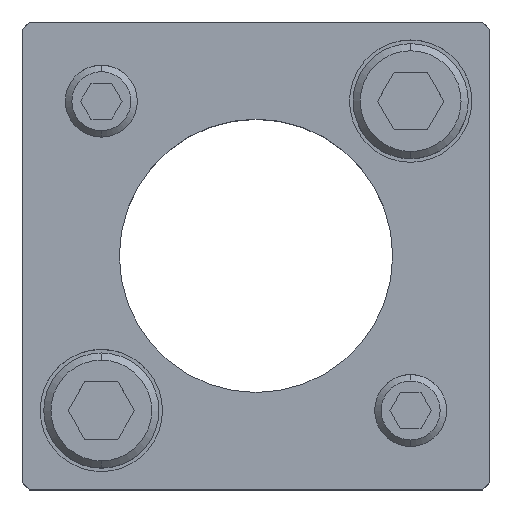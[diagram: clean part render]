
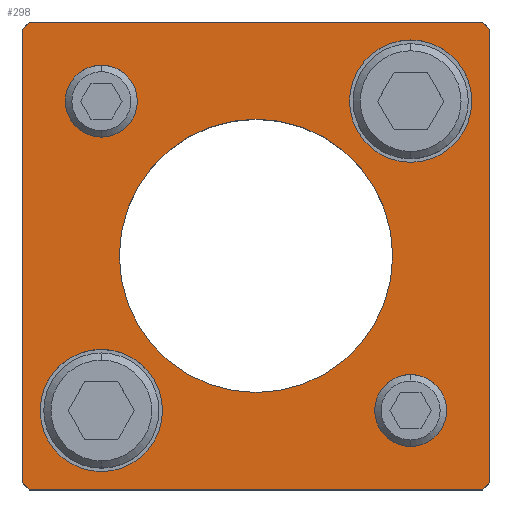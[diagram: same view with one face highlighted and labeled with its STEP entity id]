
A CAD part, top view. The second image highlights one B-rep face of the part: STEP entity #298.
In plain terms, the highlighted planar face has unit normal (0, 0, 1).
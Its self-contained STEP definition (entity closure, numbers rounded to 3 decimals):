
#153=PLANE('',#2436);
#220=FACE_BOUND('',#611,.T.);
#221=FACE_BOUND('',#612,.T.);
#222=FACE_BOUND('',#613,.T.);
#223=FACE_BOUND('',#614,.T.);
#224=FACE_BOUND('',#615,.T.);
#225=FACE_BOUND('',#616,.T.);
#298=ADVANCED_FACE('',(#220,#221,#222,#223,#224,#225),#153,.T.);
#611=EDGE_LOOP('',(#1281,#1282,#1283,#1284,#1285,#1286,#1287,#1288));
#612=EDGE_LOOP('',(#1289,#1290));
#613=EDGE_LOOP('',(#1291,#1292));
#614=EDGE_LOOP('',(#1293,#1294));
#615=EDGE_LOOP('',(#1295,#1296));
#616=EDGE_LOOP('',(#1297,#1298));
#759=LINE('',#3542,#941);
#760=LINE('',#3545,#942);
#761=LINE('',#3547,#943);
#762=LINE('',#3549,#944);
#763=LINE('',#3551,#945);
#764=LINE('',#3553,#946);
#765=LINE('',#3555,#947);
#766=LINE('',#3557,#948);
#941=VECTOR('',#2839,1.);
#942=VECTOR('',#2840,1.);
#943=VECTOR('',#2841,1.);
#944=VECTOR('',#2842,1.);
#945=VECTOR('',#2843,1.);
#946=VECTOR('',#2844,1.);
#947=VECTOR('',#2845,1.);
#948=VECTOR('',#2846,1.);
#1281=ORIENTED_EDGE('',*,*,#2001,.T.);
#1282=ORIENTED_EDGE('',*,*,#2002,.T.);
#1283=ORIENTED_EDGE('',*,*,#2003,.T.);
#1284=ORIENTED_EDGE('',*,*,#2004,.T.);
#1285=ORIENTED_EDGE('',*,*,#2005,.T.);
#1286=ORIENTED_EDGE('',*,*,#2006,.T.);
#1287=ORIENTED_EDGE('',*,*,#2007,.T.);
#1288=ORIENTED_EDGE('',*,*,#2008,.T.);
#1289=ORIENTED_EDGE('',*,*,#2009,.F.);
#1290=ORIENTED_EDGE('',*,*,#2010,.F.);
#1291=ORIENTED_EDGE('',*,*,#2011,.F.);
#1292=ORIENTED_EDGE('',*,*,#2012,.F.);
#1293=ORIENTED_EDGE('',*,*,#1987,.F.);
#1294=ORIENTED_EDGE('',*,*,#1983,.F.);
#1295=ORIENTED_EDGE('',*,*,#1981,.F.);
#1296=ORIENTED_EDGE('',*,*,#1977,.F.);
#1297=ORIENTED_EDGE('',*,*,#2013,.T.);
#1298=ORIENTED_EDGE('',*,*,#2014,.T.);
#1751=VERTEX_POINT('',#3493);
#1752=VERTEX_POINT('',#3494);
#1755=VERTEX_POINT('',#3506);
#1756=VERTEX_POINT('',#3507);
#1767=VERTEX_POINT('',#3543);
#1768=VERTEX_POINT('',#3544);
#1769=VERTEX_POINT('',#3546);
#1770=VERTEX_POINT('',#3548);
#1771=VERTEX_POINT('',#3550);
#1772=VERTEX_POINT('',#3552);
#1773=VERTEX_POINT('',#3554);
#1774=VERTEX_POINT('',#3556);
#1775=VERTEX_POINT('',#3559);
#1776=VERTEX_POINT('',#3560);
#1777=VERTEX_POINT('',#3563);
#1778=VERTEX_POINT('',#3564);
#1779=VERTEX_POINT('',#3567);
#1780=VERTEX_POINT('',#3568);
#1977=EDGE_CURVE('',#1751,#1752,#2247,.T.);
#1981=EDGE_CURVE('',#1752,#1751,#2249,.T.);
#1983=EDGE_CURVE('',#1755,#1756,#2251,.T.);
#1987=EDGE_CURVE('',#1756,#1755,#2253,.T.);
#2001=EDGE_CURVE('',#1767,#1768,#759,.T.);
#2002=EDGE_CURVE('',#1768,#1769,#760,.T.);
#2003=EDGE_CURVE('',#1769,#1770,#761,.T.);
#2004=EDGE_CURVE('',#1770,#1771,#762,.T.);
#2005=EDGE_CURVE('',#1771,#1772,#763,.T.);
#2006=EDGE_CURVE('',#1772,#1773,#764,.T.);
#2007=EDGE_CURVE('',#1773,#1774,#765,.T.);
#2008=EDGE_CURVE('',#1774,#1767,#766,.T.);
#2009=EDGE_CURVE('',#1775,#1776,#2263,.T.);
#2010=EDGE_CURVE('',#1776,#1775,#2264,.T.);
#2011=EDGE_CURVE('',#1777,#1778,#2265,.T.);
#2012=EDGE_CURVE('',#1778,#1777,#2266,.T.);
#2013=EDGE_CURVE('',#1779,#1780,#2267,.T.);
#2014=EDGE_CURVE('',#1780,#1779,#2268,.T.);
#2247=CIRCLE('',#2404,5.);
#2249=CIRCLE('',#2407,5.);
#2251=CIRCLE('',#2411,5.);
#2253=CIRCLE('',#2414,5.);
#2263=CIRCLE('',#2430,8.5);
#2264=CIRCLE('',#2431,8.5);
#2265=CIRCLE('',#2432,8.5);
#2266=CIRCLE('',#2433,8.5);
#2267=CIRCLE('',#2434,19.);
#2268=CIRCLE('',#2435,19.);
#2404=AXIS2_PLACEMENT_3D('',#3492,#2779,#2780);
#2407=AXIS2_PLACEMENT_3D('',#3501,#2787,#2788);
#2411=AXIS2_PLACEMENT_3D('',#3505,#2795,#2796);
#2414=AXIS2_PLACEMENT_3D('',#3514,#2803,#2804);
#2430=AXIS2_PLACEMENT_3D('',#3558,#2847,#2848);
#2431=AXIS2_PLACEMENT_3D('',#3561,#2849,#2850);
#2432=AXIS2_PLACEMENT_3D('',#3562,#2851,#2852);
#2433=AXIS2_PLACEMENT_3D('',#3565,#2853,#2854);
#2434=AXIS2_PLACEMENT_3D('',#3566,#2855,#2856);
#2435=AXIS2_PLACEMENT_3D('',#3569,#2857,#2858);
#2436=AXIS2_PLACEMENT_3D('',#3570,#2859,#2860);
#2779=DIRECTION('',(0.,0.,1.));
#2780=DIRECTION('',(-1.,0.,0.));
#2787=DIRECTION('',(0.,0.,1.));
#2788=DIRECTION('',(1.,0.,0.));
#2795=DIRECTION('',(0.,0.,1.));
#2796=DIRECTION('',(-1.,0.,0.));
#2803=DIRECTION('',(0.,0.,1.));
#2804=DIRECTION('',(1.,0.,0.));
#2839=DIRECTION('',(0.707,0.707,0.));
#2840=DIRECTION('',(0.,1.,0.));
#2841=DIRECTION('',(-0.707,0.707,0.));
#2842=DIRECTION('',(-1.,0.,0.));
#2843=DIRECTION('',(-0.707,-0.707,0.));
#2844=DIRECTION('',(0.,-1.,0.));
#2845=DIRECTION('',(0.707,-0.707,0.));
#2846=DIRECTION('',(1.,0.,0.));
#2847=DIRECTION('',(0.,0.,1.));
#2848=DIRECTION('',(1.,0.,0.));
#2849=DIRECTION('',(0.,0.,1.));
#2850=DIRECTION('',(-1.,0.,0.));
#2851=DIRECTION('',(0.,0.,1.));
#2852=DIRECTION('',(1.,0.,0.));
#2853=DIRECTION('',(0.,0.,1.));
#2854=DIRECTION('',(-1.,0.,0.));
#2855=DIRECTION('',(0.,0.,-1.));
#2856=DIRECTION('',(-1.,0.,0.));
#2857=DIRECTION('',(0.,0.,-1.));
#2858=DIRECTION('',(1.,0.,0.));
#2859=DIRECTION('',(0.,0.,1.));
#2860=DIRECTION('',(-1.,0.,0.));
#3492=CARTESIAN_POINT('',(21.5,-21.5,30.));
#3493=CARTESIAN_POINT('',(21.5,-26.5,30.));
#3494=CARTESIAN_POINT('',(21.5,-16.5,30.));
#3501=CARTESIAN_POINT('',(21.5,-21.5,30.));
#3505=CARTESIAN_POINT('',(-21.5,21.5,30.));
#3506=CARTESIAN_POINT('',(-21.5,16.5,30.));
#3507=CARTESIAN_POINT('',(-21.5,26.5,30.));
#3514=CARTESIAN_POINT('',(-21.5,21.5,30.));
#3542=CARTESIAN_POINT('',(31.5,-32.5,30.));
#3543=CARTESIAN_POINT('',(31.5,-32.5,30.));
#3544=CARTESIAN_POINT('',(32.5,-31.5,30.));
#3545=CARTESIAN_POINT('',(32.5,31.5,30.));
#3546=CARTESIAN_POINT('',(32.5,31.5,30.));
#3547=CARTESIAN_POINT('',(32.5,31.5,30.));
#3548=CARTESIAN_POINT('',(31.5,32.5,30.));
#3549=CARTESIAN_POINT('',(-31.5,32.5,30.));
#3550=CARTESIAN_POINT('',(-31.5,32.5,30.));
#3551=CARTESIAN_POINT('',(-31.5,32.5,30.));
#3552=CARTESIAN_POINT('',(-32.5,31.5,30.));
#3553=CARTESIAN_POINT('',(-32.5,31.5,30.));
#3554=CARTESIAN_POINT('',(-32.5,-31.5,30.));
#3555=CARTESIAN_POINT('',(-32.5,-31.5,30.));
#3556=CARTESIAN_POINT('',(-31.5,-32.5,30.));
#3557=CARTESIAN_POINT('',(-31.5,-32.5,30.));
#3558=CARTESIAN_POINT('',(21.5,21.5,30.));
#3559=CARTESIAN_POINT('',(21.5,30.,30.));
#3560=CARTESIAN_POINT('',(21.5,13.,30.));
#3561=CARTESIAN_POINT('',(21.5,21.5,30.));
#3562=CARTESIAN_POINT('',(-21.5,-21.5,30.));
#3563=CARTESIAN_POINT('',(-21.5,-13.,30.));
#3564=CARTESIAN_POINT('',(-21.5,-30.,30.));
#3565=CARTESIAN_POINT('',(-21.5,-21.5,30.));
#3566=CARTESIAN_POINT('',(0.,0.,30.));
#3567=CARTESIAN_POINT('',(0.,19.,30.));
#3568=CARTESIAN_POINT('',(0.,-19.,30.));
#3569=CARTESIAN_POINT('',(0.,0.,30.));
#3570=CARTESIAN_POINT('',(31.5,-32.5,30.));
